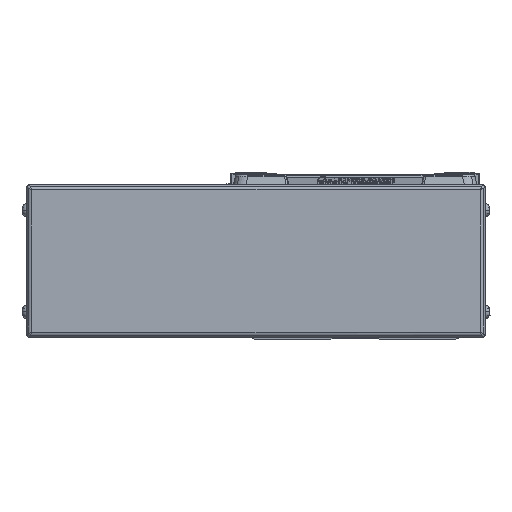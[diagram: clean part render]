
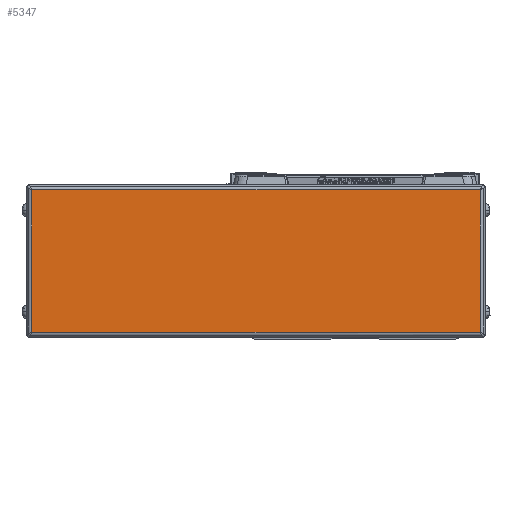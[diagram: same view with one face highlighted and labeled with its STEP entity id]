
A CAD part, left-side view. The second image highlights one B-rep face of the part: STEP entity #5347.
In plain terms, the highlighted planar face has unit normal (-1, 0, 0).
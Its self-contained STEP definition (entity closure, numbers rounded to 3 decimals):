
#5347=ADVANCED_FACE('',(#11572),#11573,.F.);
#11572=FACE_OUTER_BOUND('',#19386,.T.);
#11573=PLANE('',#19387);
#19386=EDGE_LOOP('',(#34723,#34724,#34725,#34726));
#19387=AXIS2_PLACEMENT_3D('',#34727,#34728,#34729);
#34723=ORIENTED_EDGE('',*,*,#49482,.T.);
#34724=ORIENTED_EDGE('',*,*,#49483,.T.);
#34725=ORIENTED_EDGE('',*,*,#49484,.T.);
#34726=ORIENTED_EDGE('',*,*,#49485,.T.);
#34727=CARTESIAN_POINT('',(-616.,39.,0.));
#34728=DIRECTION('',(1.0,0.,0.));
#34729=DIRECTION('',(0.,0.,1.0));
#49482=EDGE_CURVE('',#55342,#61198,#61199,.T.);
#49483=EDGE_CURVE('',#61198,#53965,#61200,.T.);
#49484=EDGE_CURVE('',#53965,#57188,#61201,.T.);
#49485=EDGE_CURVE('',#57188,#55342,#61202,.T.);
#53965=VERTEX_POINT('',#66737);
#55342=VERTEX_POINT('',#68610);
#57188=VERTEX_POINT('',#71081);
#61198=VERTEX_POINT('',#76725);
#61199=LINE('',#76726,#76727);
#61200=LINE('',#76728,#76729);
#61201=LINE('',#76730,#76731);
#61202=LINE('',#76732,#76733);
#66737=CARTESIAN_POINT('',(-616.0,127.2,-28.));
#68610=CARTESIAN_POINT('',(-616.,-49.2,28.));
#71081=CARTESIAN_POINT('',(-616.,-49.2,-28.));
#76725=CARTESIAN_POINT('',(-616.0,127.2,28.));
#76726=CARTESIAN_POINT('',(-616.,39.,28.));
#76727=VECTOR('',#87859,10.0);
#76728=CARTESIAN_POINT('',(-616.0,127.2,0.));
#76729=VECTOR('',#87860,10.0);
#76730=CARTESIAN_POINT('',(-616.0,39.,-28.));
#76731=VECTOR('',#87861,10.0);
#76732=CARTESIAN_POINT('',(-616.,-49.2,0.));
#76733=VECTOR('',#87862,10.0);
#87859=DIRECTION('',(0.,1.0,0.));
#87860=DIRECTION('',(0.,0.,-1.0));
#87861=DIRECTION('',(0.,-1.0,0.));
#87862=DIRECTION('',(0.,0.,1.0));
